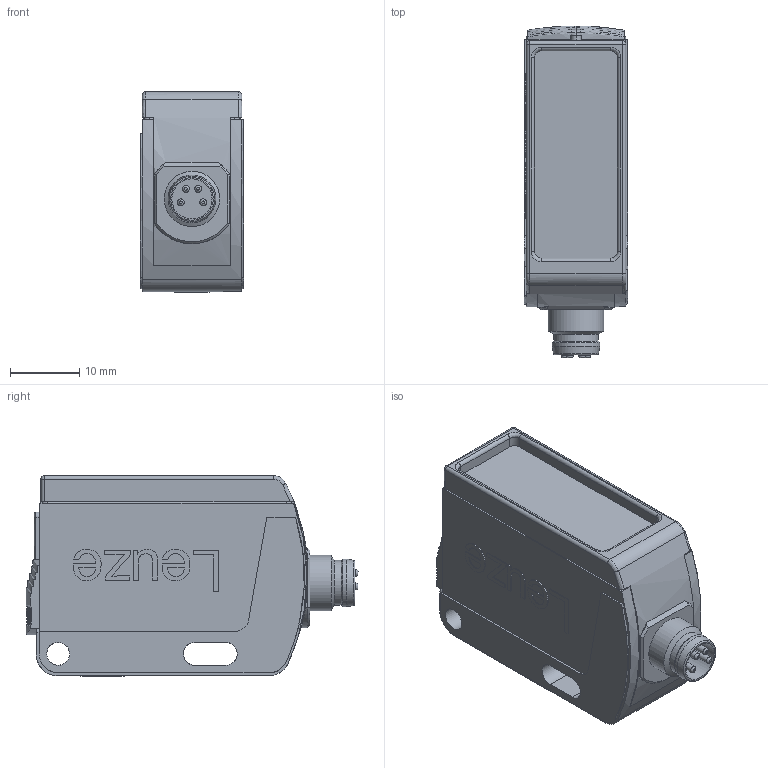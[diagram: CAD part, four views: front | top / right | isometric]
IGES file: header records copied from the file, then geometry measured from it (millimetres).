
Global section: file name: E:\temp\br25b_st_m8.igs; preprocessor: I-DEAS 3D IGES Translator 11; date: 20061023.100856; units: millimetre
Bounding box: 15 x 48 x 29 mm (x, y, z)
Volume: 15201.4 mm3; surface area: 5158.6 mm2
Topology: 1 solids, 1 shells, 330 faces, 863 edges, 573 vertices
Faces by surface type: bspline 330
